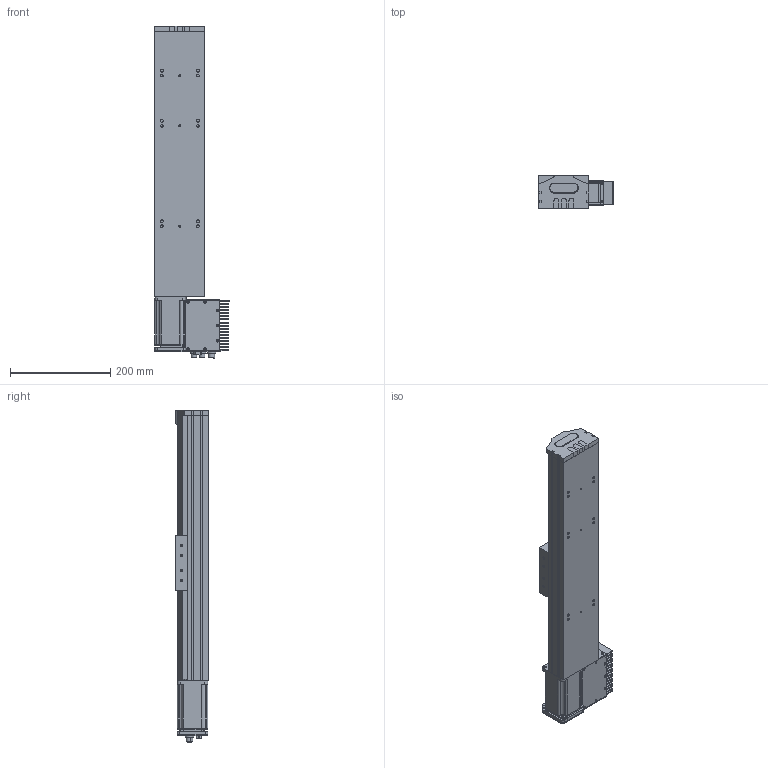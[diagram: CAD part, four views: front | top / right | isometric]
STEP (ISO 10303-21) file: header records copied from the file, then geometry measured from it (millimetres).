
FILE_DESCRIPTION (( 'STEP AP203' ), '1' );
FILE_NAME ('S 10 TSH MD S300.STEP', '2012-08-29T09:39:55', ( 'Conseil Régional Haute-Normandie' ), ( 'Conseil Régional Haute-Normandie' ), 'SwSTEP 2.0', 'SolidWorks 2010', '' );
FILE_SCHEMA (( 'CONFIG_CONTROL_DESIGN' ));
Length unit declared in the file: millimetre
Products named in the file (23): S 10 TSH MD S300; remplir_Default; Pièce2_Default; BU45 Carte d''axe A11_5; Moteur 60BLDC90A_3; Couvercle_3; Colonnette ronde_3; Radiateur profil_X2_00E9_X0_ 100x25_3; T_X2_00F4_X0_le Arri_X2_00E8_X0_re_5; palette tbn2; axe530_Default; piece_plastique remplieTSH_Default; embout_modifié; Assem1_7; T_X2_00F4_X0_le contre le moteur_5; BU41 Carte Alimentation P05_3; Colonnette_3; T_X2_00F4_X0_le fond_3; Connecteur rond D10 3cts_5; Connecteur rond D12 4cts_5; Sub D 9cts 90_X2_00B_X0__3; T_X2_00F4_X0_le lat_X2_00E9_X0_rale_5; Vis TF 3 torkx_1_1
Assembly tree (47 placements, depth 3):
  S 10 TSH MD S300
    piece_plastique remplieTSH_Default
      remplir_Default  x3
      Pièce2_Default
      embout_modifié
    Assem1_7
      Connecteur rond D12 4cts_5
      Radiateur profil_X2_00E9_X0_ 100x25_3
      Vis TF 3 torkx_1_1  x21
      Connecteur rond D10 3cts_5  x2
      BU45 Carte d''axe A11_5
      Colonnette_3  x2
      T_X2_00F4_X0_le lat_X2_00E9_X0_rale_5  x2
      Moteur 60BLDC90A_3
      Colonnette ronde_3
      Sub D 9cts 90_X2_00B_X0__3
      T_X2_00F4_X0_le fond_3
      T_X2_00F4_X0_le contre le moteur_5
      BU41 Carte Alimentation P05_3
      Couvercle_3
      T_X2_00F4_X0_le Arri_X2_00E8_X0_re_5
    axe530_Default
    palette tbn2
Bounding box: 148.26 x 66.75 x 661.6 mm (x, y, z)
Volume: 3453790.7 mm3; surface area: 506565.5 mm2
Topology: 45 solids, 45 shells, 1711 faces, 4367 edges, 2842 vertices
Faces by surface type: plane 796, cylinder 762, cone 150, torus 3
Entity records: 35724 total; most frequent: CARTESIAN_POINT 6048, DIRECTION 5818, ORIENTED_EDGE 5310, EDGE_CURVE 2655, AXIS2_PLACEMENT_3D 2125, VERTEX_POINT 1742, LINE 1568, VECTOR 1568
